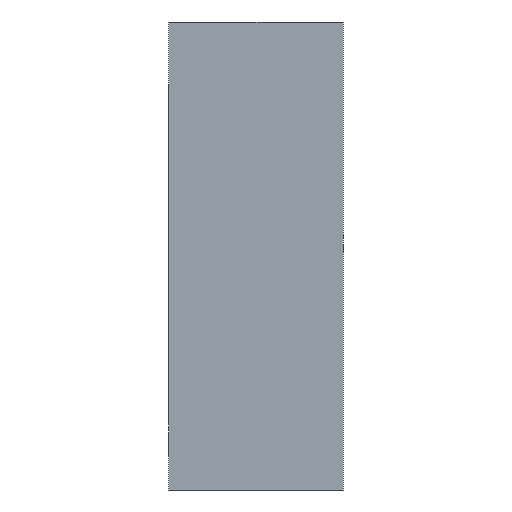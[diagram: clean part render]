
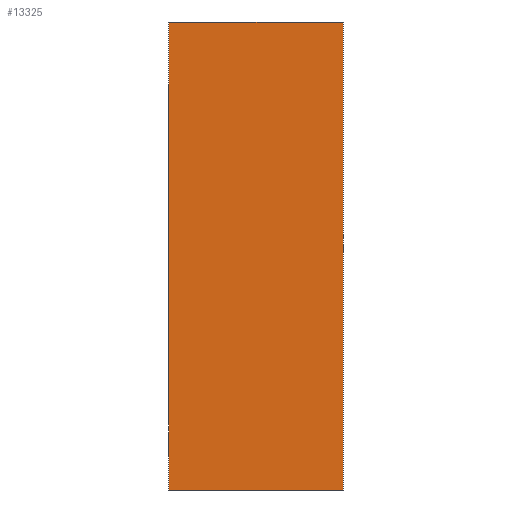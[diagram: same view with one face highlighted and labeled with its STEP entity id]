
A CAD part, left-side view. The second image highlights one B-rep face of the part: STEP entity #13325.
In plain terms, the highlighted planar face has unit normal (-1, 0, 0).
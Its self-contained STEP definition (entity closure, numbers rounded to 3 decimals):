
#191 = EDGE_LOOP ( 'NONE', ( #12243, #20728, #10311, #19208 ) ) ;
#2594 = CARTESIAN_POINT ( 'NONE',  ( -661.446, -131.723, -160.28 ) ) ;
#3229 = LINE ( 'NONE', #25567, #19456 ) ;
#3669 = VECTOR ( 'NONE', #15419, 1000. ) ;
#3951 = CARTESIAN_POINT ( 'NONE',  ( -661.446, -4.344, -160.28 ) ) ;
#4804 = FACE_OUTER_BOUND ( 'NONE', #191, .T. ) ;
#5181 = CARTESIAN_POINT ( 'NONE',  ( -661.446, -1434.786, -160.28 ) ) ;
#5337 = DIRECTION ( 'NONE',  ( 0., 0., 1. ) ) ;
#5724 = EDGE_CURVE ( 'NONE', #9018, #14892, #20514, .T. ) ;
#6721 = VERTEX_POINT ( 'NONE', #3951 ) ;
#7099 = CARTESIAN_POINT ( 'NONE',  ( -661.446, -131.723, 181.267 ) ) ;
#7150 = DIRECTION ( 'NONE',  ( 0., 1., 0. ) ) ;
#9018 = VERTEX_POINT ( 'NONE', #7099 ) ;
#9734 = EDGE_CURVE ( 'NONE', #9868, #9018, #13320, .T. ) ;
#9868 = VERTEX_POINT ( 'NONE', #2594 ) ;
#10311 = ORIENTED_EDGE ( 'NONE', *, *, #5724, .T. ) ;
#11465 = CARTESIAN_POINT ( 'NONE',  ( -661.446, -131.723, -160.28 ) ) ;
#12243 = ORIENTED_EDGE ( 'NONE', *, *, #19379, .F. ) ;
#12335 = AXIS2_PLACEMENT_3D ( 'NONE', #21046, #21440, #25568 ) ;
#13077 = VECTOR ( 'NONE', #7150, 1000. ) ;
#13320 = LINE ( 'NONE', #11465, #3669 ) ;
#13325 = ADVANCED_FACE ( 'NONE', ( #4804 ), #13403, .T. ) ;
#13403 = PLANE ( 'NONE',  #12335 ) ;
#14883 = EDGE_CURVE ( 'NONE', #6721, #14892, #3229, .T. ) ;
#14892 = VERTEX_POINT ( 'NONE', #17605 ) ;
#15419 = DIRECTION ( 'NONE',  ( 0., 0., 1. ) ) ;
#17605 = CARTESIAN_POINT ( 'NONE',  ( -661.446, -4.344, 181.267 ) ) ;
#18402 = DIRECTION ( 'NONE',  ( 0., 1., 0. ) ) ;
#18665 = CARTESIAN_POINT ( 'NONE',  ( -661.446, -1434.786, 181.267 ) ) ;
#19208 = ORIENTED_EDGE ( 'NONE', *, *, #14883, .F. ) ;
#19379 = EDGE_CURVE ( 'NONE', #9868, #6721, #23276, .T. ) ;
#19456 = VECTOR ( 'NONE', #5337, 1000. ) ;
#20514 = LINE ( 'NONE', #18665, #21211 ) ;
#20728 = ORIENTED_EDGE ( 'NONE', *, *, #9734, .T. ) ;
#21046 = CARTESIAN_POINT ( 'NONE',  ( -661.446, -1434.786, -160.28 ) ) ;
#21211 = VECTOR ( 'NONE', #18402, 1000. ) ;
#21440 = DIRECTION ( 'NONE',  ( -1., 0., 0. ) ) ;
#23276 = LINE ( 'NONE', #5181, #13077 ) ;
#25567 = CARTESIAN_POINT ( 'NONE',  ( -661.446, -4.344, -160.28 ) ) ;
#25568 = DIRECTION ( 'NONE',  ( 0., 0., 1. ) ) ;
